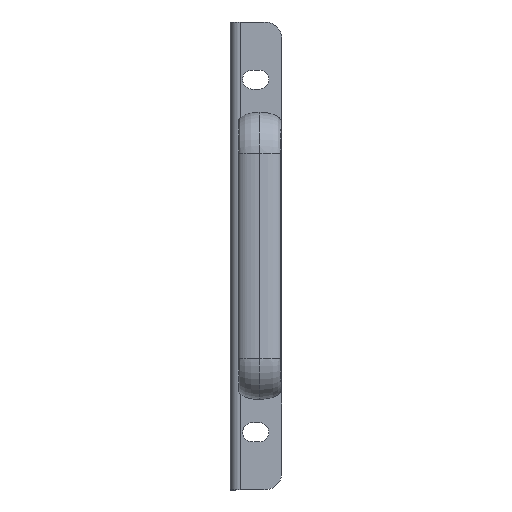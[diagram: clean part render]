
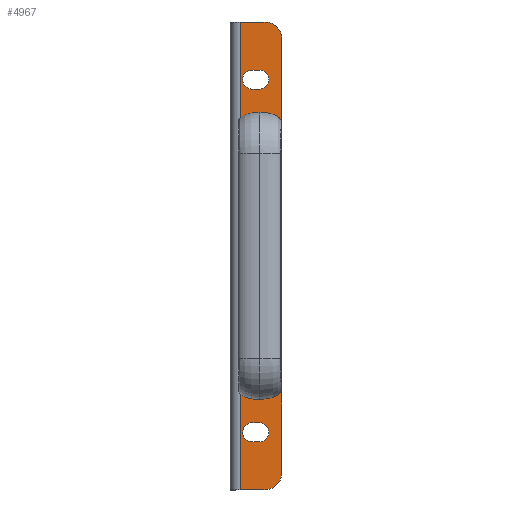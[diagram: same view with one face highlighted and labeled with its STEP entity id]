
A CAD part, top view. The second image highlights one B-rep face of the part: STEP entity #4967.
In plain terms, the highlighted planar face has unit normal (0, 0, 1) as drawn and (-1, 0, 0) by its records, which use the part's own axes.
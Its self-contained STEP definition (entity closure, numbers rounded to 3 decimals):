
#1702=DIRECTION('',(0.,-1.,0.));
#1703=VECTOR('',#1702,177.);
#1704=CARTESIAN_POINT('',(0.,88.5,1.9));
#1705=LINE('',#1704,#1703);
#1720=CARTESIAN_POINT('',(0.,-66.7,6.304));
#1721=DIRECTION('',(-1.,0.,0.));
#1722=DIRECTION('',(0.,1.,0.));
#1723=AXIS2_PLACEMENT_3D('',#1720,#1721,#1722);
#1725=DIRECTION('',(0.,0.,-1.));
#1726=VECTOR('',#1725,2.9);
#1727=CARTESIAN_POINT('',(0.,-70.25,9.204));
#1728=LINE('',#1727,#1726);
#1729=CARTESIAN_POINT('',(0.,-66.7,9.204));
#1730=DIRECTION('',(-1.,0.,0.));
#1731=DIRECTION('',(0.,-1.,0.));
#1732=AXIS2_PLACEMENT_3D('',#1729,#1730,#1731);
#1734=DIRECTION('',(0.,0.,1.));
#1735=VECTOR('',#1734,2.9);
#1736=CARTESIAN_POINT('',(0.,-63.15,6.304));
#1737=LINE('',#1736,#1735);
#1738=DIRECTION('',(0.,0.,1.));
#1739=VECTOR('',#1738,2.9);
#1740=CARTESIAN_POINT('',(0.,70.25,6.304));
#1741=LINE('',#1740,#1739);
#1742=CARTESIAN_POINT('',(0.,66.7,6.304));
#1743=DIRECTION('',(-1.,0.,0.));
#1744=DIRECTION('',(0.,1.,0.));
#1745=AXIS2_PLACEMENT_3D('',#1742,#1743,#1744);
#1747=DIRECTION('',(0.,0.,-1.));
#1748=VECTOR('',#1747,2.9);
#1749=CARTESIAN_POINT('',(0.,63.15,9.204));
#1750=LINE('',#1749,#1748);
#1751=CARTESIAN_POINT('',(0.,66.7,9.204));
#1752=DIRECTION('',(-1.,0.,0.));
#1753=DIRECTION('',(0.,-1.,0.));
#1754=AXIS2_PLACEMENT_3D('',#1751,#1752,#1753);
#1756=CARTESIAN_POINT('',(0.,82.15,11.283));
#1757=DIRECTION('',(-1.,0.,0.));
#1758=DIRECTION('',(0.,0.,1.));
#1759=AXIS2_PLACEMENT_3D('',#1756,#1757,#1758);
#1761=DIRECTION('',(0.,1.,0.));
#1762=VECTOR('',#1761,164.3);
#1763=CARTESIAN_POINT('',(0.,-82.15,17.633));
#1764=LINE('',#1763,#1762);
#1765=CARTESIAN_POINT('',(0.,-82.15,11.283));
#1766=DIRECTION('',(-1.,0.,0.));
#1767=DIRECTION('',(0.,-1.,0.));
#1768=AXIS2_PLACEMENT_3D('',#1765,#1766,#1767);
#1770=DIRECTION('',(0.,0.,1.));
#1771=VECTOR('',#1770,9.383);
#1772=CARTESIAN_POINT('',(0.,-88.5,1.9));
#1773=LINE('',#1772,#1771);
#1774=DIRECTION('',(0.,0.,-1.));
#1775=VECTOR('',#1774,9.383);
#1776=CARTESIAN_POINT('',(0.,88.5,11.283));
#1777=LINE('',#1776,#1775);
#1778=CARTESIAN_POINT('',(0.,50.8,9.382));
#1779=DIRECTION('',(1.,0.,0.));
#1780=DIRECTION('',(0.,0.,1.));
#1781=AXIS2_PLACEMENT_3D('',#1778,#1779,#1780);
#1783=CARTESIAN_POINT('',(0.,50.8,9.382));
#1784=DIRECTION('',(1.,0.,0.));
#1785=DIRECTION('',(0.,0.,-1.));
#1786=AXIS2_PLACEMENT_3D('',#1783,#1784,#1785);
#1788=CARTESIAN_POINT('',(0.,-50.8,9.382));
#1789=DIRECTION('',(1.,0.,0.));
#1790=DIRECTION('',(0.,0.,1.));
#1791=AXIS2_PLACEMENT_3D('',#1788,#1789,#1790);
#1793=CARTESIAN_POINT('',(0.,-50.8,9.382));
#1794=DIRECTION('',(1.,0.,0.));
#1795=DIRECTION('',(0.,0.,-1.));
#1796=AXIS2_PLACEMENT_3D('',#1793,#1794,#1795);
#2190=CARTESIAN_POINT('',(0.,88.5,1.9));
#2191=CARTESIAN_POINT('',(0.,-88.5,1.9));
#2192=VERTEX_POINT('',#2190);
#2193=VERTEX_POINT('',#2191);
#2222=CARTESIAN_POINT('',(0.,70.25,6.304));
#2223=CARTESIAN_POINT('',(0.,70.25,9.204));
#2224=VERTEX_POINT('',#2222);
#2225=VERTEX_POINT('',#2223);
#2226=CARTESIAN_POINT('',(0.,63.15,9.204));
#2227=VERTEX_POINT('',#2226);
#2228=CARTESIAN_POINT('',(0.,63.15,6.304));
#2229=VERTEX_POINT('',#2228);
#2230=CARTESIAN_POINT('',(0.,-63.15,6.304));
#2231=CARTESIAN_POINT('',(0.,-70.25,6.304));
#2232=VERTEX_POINT('',#2230);
#2233=VERTEX_POINT('',#2231);
#2234=CARTESIAN_POINT('',(0.,-63.15,9.204));
#2235=VERTEX_POINT('',#2234);
#2236=CARTESIAN_POINT('',(0.,-70.25,9.204));
#2237=VERTEX_POINT('',#2236);
#2238=CARTESIAN_POINT('',(0.,82.15,17.633));
#2239=CARTESIAN_POINT('',(0.,88.5,11.283));
#2240=VERTEX_POINT('',#2238);
#2241=VERTEX_POINT('',#2239);
#2246=CARTESIAN_POINT('',(0.,-88.5,11.283));
#2247=CARTESIAN_POINT('',(0.,-82.15,17.633));
#2248=VERTEX_POINT('',#2246);
#2249=VERTEX_POINT('',#2247);
#2494=CARTESIAN_POINT('',(0.,-50.8,12.353));
#2495=CARTESIAN_POINT('',(0.,-50.8,6.41));
#2496=VERTEX_POINT('',#2494);
#2497=VERTEX_POINT('',#2495);
#2498=CARTESIAN_POINT('',(0.,50.8,12.353));
#2499=CARTESIAN_POINT('',(0.,50.8,6.41));
#2500=VERTEX_POINT('',#2498);
#2501=VERTEX_POINT('',#2499);
#4917=CARTESIAN_POINT('',(0.,-88.5,-1.9));
#4918=DIRECTION('',(-1.,0.,0.));
#4919=DIRECTION('',(0.,-1.,0.));
#4920=AXIS2_PLACEMENT_3D('',#4917,#4918,#4919);
#4921=PLANE('',#4920);
#4923=ORIENTED_EDGE('',*,*,#4922,.F.);
#4925=ORIENTED_EDGE('',*,*,#4924,.F.);
#4927=ORIENTED_EDGE('',*,*,#4926,.F.);
#4929=ORIENTED_EDGE('',*,*,#4928,.F.);
#4930=ORIENTED_EDGE('',*,*,#4908,.F.);
#4932=ORIENTED_EDGE('',*,*,#4931,.F.);
#4933=EDGE_LOOP('',(#4923,#4925,#4927,#4929,#4930,#4932));
#4934=FACE_OUTER_BOUND('',#4933,.F.);
#4936=ORIENTED_EDGE('',*,*,#4935,.F.);
#4938=ORIENTED_EDGE('',*,*,#4937,.T.);
#4940=ORIENTED_EDGE('',*,*,#4939,.F.);
#4942=ORIENTED_EDGE('',*,*,#4941,.T.);
#4943=EDGE_LOOP('',(#4936,#4938,#4940,#4942));
#4944=FACE_BOUND('',#4943,.F.);
#4946=ORIENTED_EDGE('',*,*,#4945,.T.);
#4948=ORIENTED_EDGE('',*,*,#4947,.F.);
#4950=ORIENTED_EDGE('',*,*,#4949,.T.);
#4952=ORIENTED_EDGE('',*,*,#4951,.F.);
#4953=EDGE_LOOP('',(#4946,#4948,#4950,#4952));
#4954=FACE_BOUND('',#4953,.F.);
#4956=ORIENTED_EDGE('',*,*,#4955,.F.);
#4958=ORIENTED_EDGE('',*,*,#4957,.F.);
#4959=EDGE_LOOP('',(#4956,#4958));
#4960=FACE_BOUND('',#4959,.F.);
#4962=ORIENTED_EDGE('',*,*,#4961,.F.);
#4964=ORIENTED_EDGE('',*,*,#4963,.F.);
#4965=EDGE_LOOP('',(#4962,#4964));
#4966=FACE_BOUND('',#4965,.F.);
#1724=CIRCLE('',#1723,3.55);
#1733=CIRCLE('',#1732,3.55);
#1746=CIRCLE('',#1745,3.55);
#1755=CIRCLE('',#1754,3.55);
#1760=CIRCLE('',#1759,6.35);
#1769=CIRCLE('',#1768,6.35);
#1782=CIRCLE('',#1781,2.972);
#1787=CIRCLE('',#1786,2.972);
#1792=CIRCLE('',#1791,2.972);
#1797=CIRCLE('',#1796,2.972);
#4908=EDGE_CURVE('',#2192,#2193,#1705,.T.);
#4922=EDGE_CURVE('',#2240,#2241,#1760,.T.);
#4924=EDGE_CURVE('',#2249,#2240,#1764,.T.);
#4926=EDGE_CURVE('',#2248,#2249,#1769,.T.);
#4928=EDGE_CURVE('',#2193,#2248,#1773,.T.);
#4931=EDGE_CURVE('',#2241,#2192,#1777,.T.);
#4935=EDGE_CURVE('',#2224,#2225,#1741,.T.);
#4937=EDGE_CURVE('',#2224,#2229,#1746,.T.);
#4939=EDGE_CURVE('',#2227,#2229,#1750,.T.);
#4941=EDGE_CURVE('',#2227,#2225,#1755,.T.);
#4945=EDGE_CURVE('',#2232,#2233,#1724,.T.);
#4947=EDGE_CURVE('',#2237,#2233,#1728,.T.);
#4949=EDGE_CURVE('',#2237,#2235,#1733,.T.);
#4951=EDGE_CURVE('',#2232,#2235,#1737,.T.);
#4955=EDGE_CURVE('',#2500,#2501,#1782,.T.);
#4957=EDGE_CURVE('',#2501,#2500,#1787,.T.);
#4961=EDGE_CURVE('',#2496,#2497,#1792,.T.);
#4963=EDGE_CURVE('',#2497,#2496,#1797,.T.);
#4967=ADVANCED_FACE('',(#4934,#4944,#4954,#4960,#4966),#4921,.T.);
